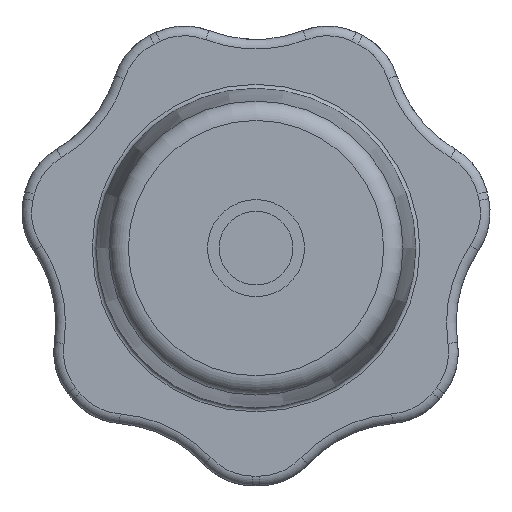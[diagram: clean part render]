
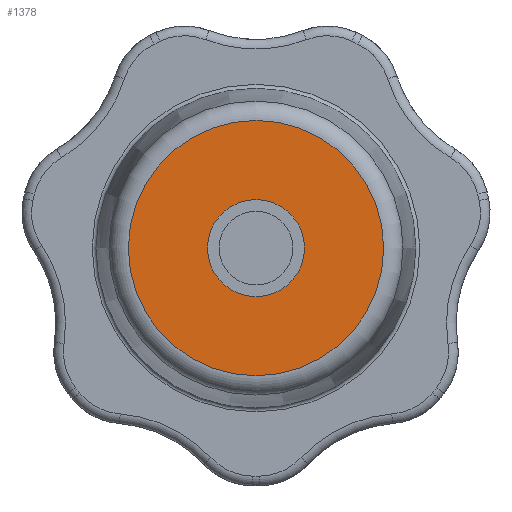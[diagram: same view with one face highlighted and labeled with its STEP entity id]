
A CAD part, front view. The second image highlights one B-rep face of the part: STEP entity #1378.
In plain terms, the highlighted planar face has unit normal (0, -1, 0).
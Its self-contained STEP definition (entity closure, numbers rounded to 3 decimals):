
#177=PLANE('',#1587);
#185=FACE_BOUND('',#379,.T.);
#277=FACE_OUTER_BOUND('',#378,.T.);
#378=EDGE_LOOP('',(#1247));
#379=EDGE_LOOP('',(#1248));
#385=CIRCLE('',#1389,2.5);
#516=CIRCLE('',#1586,6.576);
#520=VERTEX_POINT('',#2044);
#638=VERTEX_POINT('',#3053);
#642=EDGE_CURVE('',#520,#520,#385,.T.);
#843=EDGE_CURVE('',#638,#638,#516,.T.);
#1247=ORIENTED_EDGE('',*,*,#843,.F.);
#1248=ORIENTED_EDGE('',*,*,#642,.T.);
#1378=ADVANCED_FACE('',(#277,#185),#177,.T.);
#1389=AXIS2_PLACEMENT_3D('',#2045,#1604,#1605);
#1586=AXIS2_PLACEMENT_3D('',#3054,#2025,#2026);
#1587=AXIS2_PLACEMENT_3D('',#3055,#2027,#2028);
#1604=DIRECTION('center_axis',(0.,1.,0.));
#1605=DIRECTION('ref_axis',(-1.,0.,0.));
#2025=DIRECTION('center_axis',(0.,1.,0.));
#2026=DIRECTION('ref_axis',(1.,0.,0.));
#2027=DIRECTION('center_axis',(0.,-1.,0.));
#2028=DIRECTION('ref_axis',(0.,0.,-1.));
#2044=CARTESIAN_POINT('',(2.5,-9.5,0.));
#2045=CARTESIAN_POINT('Origin',(0.,-9.5,0.));
#3053=CARTESIAN_POINT('',(-6.576,-9.5,0.));
#3054=CARTESIAN_POINT('Origin',(0.,-9.5,0.));
#3055=CARTESIAN_POINT('Origin',(-3.75,-9.5,0.));
